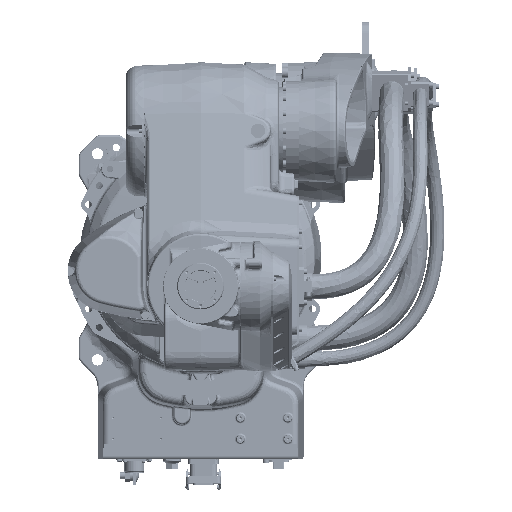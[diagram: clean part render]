
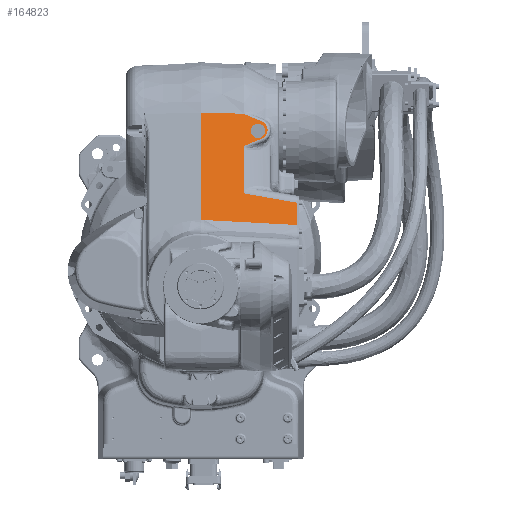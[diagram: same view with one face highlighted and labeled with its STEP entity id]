
A CAD part, top view. The second image highlights one B-rep face of the part: STEP entity #164823.
In plain terms, the highlighted planar face has unit normal (0.052, 0.259, 0.965).
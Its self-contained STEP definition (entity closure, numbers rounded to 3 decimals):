
#159505=CARTESIAN_POINT('Vertex',(0.,-142.765,152.134)) ;
#161511=CARTESIAN_POINT('Vertex',(6.214,-143.018,151.865)) ;
#161627=CARTESIAN_POINT('Control Point',(0.,-142.765,152.134)) ;
#161628=CARTESIAN_POINT('Control Point',(1.243,-142.782,152.071)) ;
#161629=CARTESIAN_POINT('Control Point',(2.487,-142.815,152.013)) ;
#161630=CARTESIAN_POINT('Control Point',(3.73,-142.866,151.959)) ;
#161631=CARTESIAN_POINT('Control Point',(4.973,-142.933,151.909)) ;
#161632=CARTESIAN_POINT('Control Point',(6.214,-143.018,151.865)) ;
#161743=CARTESIAN_POINT('Line Origine',(0.,-4829600.661,1294201.477)) ;
#161747=CARTESIAN_POINT('Vertex',(0.,28.47,106.252)) ;
#164600=CARTESIAN_POINT('Vertex',(155.,-115.334,136.374)) ;
#164603=CARTESIAN_POINT('Line Origine',(155.,-133.116,141.139)) ;
#164607=CARTESIAN_POINT('Vertex',(155.,-150.898,145.904)) ;
#164696=CARTESIAN_POINT('Control Point',(155.,-150.898,145.904)) ;
#164697=CARTESIAN_POINT('Control Point',(125.243,-149.314,147.094)) ;
#164698=CARTESIAN_POINT('Control Point',(95.486,-147.734,148.285)) ;
#164699=CARTESIAN_POINT('Control Point',(65.729,-146.158,149.477)) ;
#164700=CARTESIAN_POINT('Control Point',(35.972,-144.586,150.67)) ;
#164701=CARTESIAN_POINT('Control Point',(6.214,-143.018,151.865)) ;
#164710=CARTESIAN_POINT('Axis2P3D Location',(0.,28.47,106.252)) ;
#164716=CARTESIAN_POINT('Control Point',(68.985,-100.168,136.977)) ;
#164717=CARTESIAN_POINT('Control Point',(155.,-115.334,136.374)) ;
#164718=CARTESIAN_POINT('Vertex',(68.985,-100.168,136.977)) ;
#164721=CARTESIAN_POINT('Line Origine',(68.985,-4829601.597,1294197.985)) ;
#164725=CARTESIAN_POINT('Vertex',(68.985,-24.585,116.725)) ;
#164729=CARTESIAN_POINT('Control Point',(68.985,-24.585,116.725)) ;
#164730=CARTESIAN_POINT('Control Point',(98.002,-12.566,111.93)) ;
#164731=CARTESIAN_POINT('Vertex',(98.002,-12.566,111.93)) ;
#164735=CARTESIAN_POINT('Control Point',(98.002,15.151,104.504)) ;
#164736=CARTESIAN_POINT('Control Point',(100.275,14.209,104.633)) ;
#164737=CARTESIAN_POINT('Control Point',(102.35,12.804,104.896)) ;
#164738=CARTESIAN_POINT('Control Point',(104.094,10.994,105.287)) ;
#164739=CARTESIAN_POINT('Control Point',(106.392,7.348,106.139)) ;
#164740=CARTESIAN_POINT('Control Point',(107.3,3.209,107.199)) ;
#164741=CARTESIAN_POINT('Control Point',(107.42,1.408,107.675)) ;
#164742=CARTESIAN_POINT('Control Point',(107.04,-3.229,108.938)) ;
#164743=CARTESIAN_POINT('Control Point',(104.938,-7.469,110.188)) ;
#164744=CARTESIAN_POINT('Control Point',(103.041,-9.731,110.897)) ;
#164745=CARTESIAN_POINT('Control Point',(100.662,-11.464,111.491)) ;
#164746=CARTESIAN_POINT('Control Point',(98.002,-12.566,111.93)) ;
#164747=CARTESIAN_POINT('Vertex',(98.002,15.151,104.504)) ;
#164751=CARTESIAN_POINT('Control Point',(68.985,27.17,102.857)) ;
#164752=CARTESIAN_POINT('Control Point',(98.002,15.151,104.504)) ;
#164753=CARTESIAN_POINT('Vertex',(68.985,27.17,102.857)) ;
#164756=CARTESIAN_POINT('Line Origine',(68.985,-4829601.597,1294197.985)) ;
#164760=CARTESIAN_POINT('Vertex',(68.985,27.534,102.76)) ;
#164763=CARTESIAN_POINT('Line Origine',(56.,27.711,103.417)) ;
#164782=CARTESIAN_POINT('Control Point',(81.908,-5.513,110.914)) ;
#164783=CARTESIAN_POINT('Control Point',(82.933,-7.39,111.361)) ;
#164784=CARTESIAN_POINT('Control Point',(84.402,-9.043,111.724)) ;
#164785=CARTESIAN_POINT('Control Point',(86.262,-10.333,111.969)) ;
#164786=CARTESIAN_POINT('Control Point',(90.142,-11.798,112.151)) ;
#164787=CARTESIAN_POINT('Control Point',(94.238,-11.51,111.851)) ;
#164788=CARTESIAN_POINT('Control Point',(96.053,-10.997,111.616)) ;
#164789=CARTESIAN_POINT('Control Point',(99.734,-9.104,110.908)) ;
#164790=CARTESIAN_POINT('Control Point',(102.271,-5.859,109.901)) ;
#164791=CARTESIAN_POINT('Control Point',(103.2,-3.777,109.293)) ;
#164792=CARTESIAN_POINT('Control Point',(103.791,-0.535,108.392)) ;
#164793=CARTESIAN_POINT('Control Point',(103.257,2.664,107.564)) ;
#164794=CARTESIAN_POINT('Control Point',(102.976,3.655,107.314)) ;
#164795=CARTESIAN_POINT('Control Point',(102.586,4.61,107.079)) ;
#164796=CARTESIAN_POINT('Control Point',(102.092,5.513,106.864)) ;
#164797=CARTESIAN_POINT('Vertex',(81.908,-5.513,110.914)) ;
#164799=CARTESIAN_POINT('Vertex',(102.092,5.513,106.864)) ;
#164803=CARTESIAN_POINT('Control Point',(102.092,5.513,106.864)) ;
#164804=CARTESIAN_POINT('Control Point',(101.028,7.461,106.4)) ;
#164805=CARTESIAN_POINT('Control Point',(99.486,9.168,106.026)) ;
#164806=CARTESIAN_POINT('Control Point',(97.524,10.478,105.781)) ;
#164807=CARTESIAN_POINT('Control Point',(93.512,11.866,105.627)) ;
#164808=CARTESIAN_POINT('Control Point',(89.346,11.421,105.972)) ;
#164809=CARTESIAN_POINT('Control Point',(87.551,10.843,106.225)) ;
#164810=CARTESIAN_POINT('Control Point',(85.045,9.437,106.737)) ;
#164811=CARTESIAN_POINT('Control Point',(83.114,7.4,107.388)) ;
#164812=CARTESIAN_POINT('Control Point',(82.512,6.61,107.632)) ;
#164813=CARTESIAN_POINT('Control Point',(80.879,3.909,108.445)) ;
#164814=CARTESIAN_POINT('Control Point',(80.219,0.77,109.322)) ;
#164815=CARTESIAN_POINT('Control Point',(80.28,-1.456,109.915)) ;
#164816=CARTESIAN_POINT('Control Point',(80.863,-3.6,110.458)) ;
#164817=CARTESIAN_POINT('Control Point',(81.908,-5.513,110.914)) ;
#161744=DIRECTION('Vector Direction',(0.,-0.966,0.259)) ;
#164604=DIRECTION('Vector Direction',(0.,-0.966,0.259)) ;
#164711=DIRECTION('Axis2P3D Direction',(-0.052,-0.258,-0.965)) ;
#164712=DIRECTION('Axis2P3D XDirection',(0.,-0.966,0.259)) ;
#164722=DIRECTION('Vector Direction',(0.,-0.966,0.259)) ;
#164757=DIRECTION('Vector Direction',(0.,-0.966,0.259)) ;
#164764=DIRECTION('Vector Direction',(-0.999,0.014,0.051)) ;
#164713=AXIS2_PLACEMENT_3D('Plane Axis2P3D',#164710,#164711,#164712) ;
#164769=ORIENTED_EDGE('',*,*,#164609,.F.) ;
#164770=ORIENTED_EDGE('',*,*,#164720,.T.) ;
#164771=ORIENTED_EDGE('',*,*,#164727,.F.) ;
#164772=ORIENTED_EDGE('',*,*,#164733,.F.) ;
#164773=ORIENTED_EDGE('',*,*,#164749,.F.) ;
#164774=ORIENTED_EDGE('',*,*,#164755,.F.) ;
#164775=ORIENTED_EDGE('',*,*,#164762,.F.) ;
#164776=ORIENTED_EDGE('',*,*,#164767,.F.) ;
#164777=ORIENTED_EDGE('',*,*,#161749,.F.) ;
#164778=ORIENTED_EDGE('',*,*,#161633,.T.) ;
#164779=ORIENTED_EDGE('',*,*,#164702,.T.) ;
#164820=ORIENTED_EDGE('',*,*,#164801,.F.) ;
#164821=ORIENTED_EDGE('',*,*,#164818,.F.) ;
#164822=FACE_BOUND('',#164819,.T.) ;
#161745=VECTOR('Line Direction',#161744,1.) ;
#164605=VECTOR('Line Direction',#164604,1.) ;
#164723=VECTOR('Line Direction',#164722,1.) ;
#164758=VECTOR('Line Direction',#164757,1.) ;
#164765=VECTOR('Line Direction',#164764,1.) ;
#164823=ADVANCED_FACE('J3',(#164780,#164822),#164714,.F.) ;
#161626=B_SPLINE_CURVE_WITH_KNOTS('',5,(#161627,#161628,#161629,#161630,#161631,#161632),.UNSPECIFIED.,.F.,.U.,(6,6),(92.922,100.666),.UNSPECIFIED.) ;
#164695=B_SPLINE_CURVE_WITH_KNOTS('',5,(#164696,#164697,#164698,#164699,#164700,#164701),.UNSPECIFIED.,.F.,.U.,(6,6),(52.44,263.311),.UNSPECIFIED.) ;
#164715=B_SPLINE_CURVE_WITH_KNOTS('',1,(#164716,#164717),.UNSPECIFIED.,.F.,.U.,(2,2),(-2.646,84.699),.UNSPECIFIED.) ;
#164728=B_SPLINE_CURVE_WITH_KNOTS('',1,(#164729,#164730),.UNSPECIFIED.,.F.,.U.,(2,2),(14.041,45.813),.UNSPECIFIED.) ;
#164734=B_SPLINE_CURVE_WITH_KNOTS('',5,(#164735,#164736,#164737,#164738,#164739,#164740,#164741,#164742,#164743,#164744,#164745,#164746),.UNSPECIFIED.,.F.,.U.,(6,3,3,6),(49.744,70.266,85.458,109.65),.UNSPECIFIED.) ;
#164750=B_SPLINE_CURVE_WITH_KNOTS('',1,(#164751,#164752),.UNSPECIFIED.,.F.,.U.,(2,2),(13.421,44.872),.UNSPECIFIED.) ;
#164781=B_SPLINE_CURVE_WITH_KNOTS('',5,(#164782,#164783,#164784,#164785,#164786,#164787,#164788,#164789,#164790,#164791,#164792,#164793,#164794,#164795,#164796),.UNSPECIFIED.,.F.,.U.,(6,3,3,3,6),(0.,15.446,28.501,44.597,52.034),.UNSPECIFIED.) ;
#164802=B_SPLINE_CURVE_WITH_KNOTS('',5,(#164803,#164804,#164805,#164806,#164807,#164808,#164809,#164810,#164811,#164812,#164813,#164814,#164815,#164816,#164817),.UNSPECIFIED.,.F.,.U.,(6,3,3,3,6),(52.034,68.065,81.14,88.321,104.068),.UNSPECIFIED.) ;
#161633=EDGE_CURVE('',#159506,#161512,#161626,.T.) ;
#161749=EDGE_CURVE('',#159506,#161748,#161746,.F.) ;
#164609=EDGE_CURVE('',#164601,#164608,#164606,.T.) ;
#164702=EDGE_CURVE('',#161512,#164608,#164695,.F.) ;
#164720=EDGE_CURVE('',#164601,#164719,#164715,.F.) ;
#164727=EDGE_CURVE('',#164726,#164719,#164724,.T.) ;
#164733=EDGE_CURVE('',#164732,#164726,#164728,.F.) ;
#164749=EDGE_CURVE('',#164748,#164732,#164734,.T.) ;
#164755=EDGE_CURVE('',#164754,#164748,#164750,.T.) ;
#164762=EDGE_CURVE('',#164761,#164754,#164759,.T.) ;
#164767=EDGE_CURVE('',#161748,#164761,#164766,.F.) ;
#164801=EDGE_CURVE('',#164798,#164800,#164781,.T.) ;
#164818=EDGE_CURVE('',#164800,#164798,#164802,.T.) ;
#164768=EDGE_LOOP('',(#164769,#164770,#164771,#164772,#164773,#164774,#164775,#164776,#164777,#164778,#164779)) ;
#164819=EDGE_LOOP('',(#164820,#164821)) ;
#164780=FACE_OUTER_BOUND('',#164768,.T.) ;
#161746=LINE('Line',#161743,#161745) ;
#164606=LINE('Line',#164603,#164605) ;
#164724=LINE('Line',#164721,#164723) ;
#164759=LINE('Line',#164756,#164758) ;
#164766=LINE('Line',#164763,#164765) ;
#164714=PLANE('',#164713) ;
#159506=VERTEX_POINT('',#159505) ;
#161512=VERTEX_POINT('',#161511) ;
#161748=VERTEX_POINT('',#161747) ;
#164601=VERTEX_POINT('',#164600) ;
#164608=VERTEX_POINT('',#164607) ;
#164719=VERTEX_POINT('',#164718) ;
#164726=VERTEX_POINT('',#164725) ;
#164732=VERTEX_POINT('',#164731) ;
#164748=VERTEX_POINT('',#164747) ;
#164754=VERTEX_POINT('',#164753) ;
#164761=VERTEX_POINT('',#164760) ;
#164798=VERTEX_POINT('',#164797) ;
#164800=VERTEX_POINT('',#164799) ;
